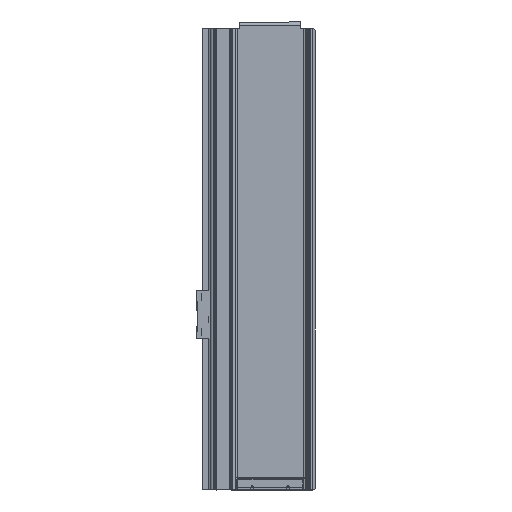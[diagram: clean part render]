
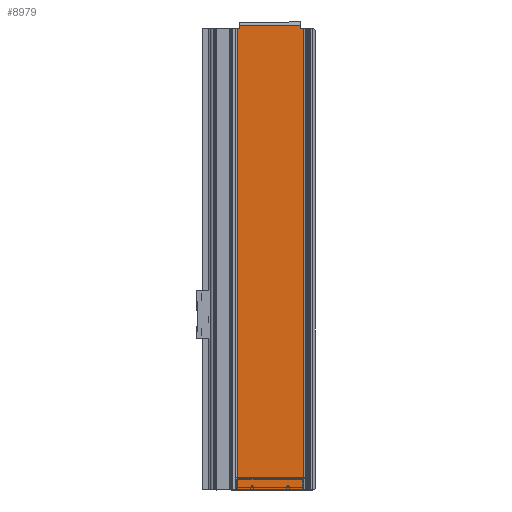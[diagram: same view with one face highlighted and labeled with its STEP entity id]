
A CAD part, left-side view. The second image highlights one B-rep face of the part: STEP entity #8979.
In plain terms, the highlighted planar face has unit normal (-1, 0, 0) as drawn and (1, 0, 0) by its records, which use the part's own axes.
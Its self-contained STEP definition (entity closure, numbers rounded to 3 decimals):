
#267=PLANE('',#9782);
#738=LINE('',#14488,#1466);
#743=LINE('',#14503,#1471);
#748=LINE('',#14512,#1476);
#749=LINE('',#14515,#1477);
#786=LINE('',#14640,#1514);
#804=LINE('',#14688,#1532);
#805=LINE('',#14691,#1533);
#806=LINE('',#14692,#1534);
#1466=VECTOR('',#11616,10.);
#1471=VECTOR('',#11631,10.);
#1476=VECTOR('',#11638,10.);
#1477=VECTOR('',#11641,10.);
#1514=VECTOR('',#11748,10.);
#1532=VECTOR('',#11802,10.);
#1533=VECTOR('',#11805,10.);
#1534=VECTOR('',#11806,10.);
#2195=FACE_OUTER_BOUND('',#2745,.T.);
#2745=EDGE_LOOP('',(#7028,#7029,#7030,#7031,#7032,#7033,#7034,#7035));
#3902=VERTEX_POINT('',#14484);
#3903=VERTEX_POINT('',#14486);
#3908=VERTEX_POINT('',#14502);
#3911=VERTEX_POINT('',#14510);
#3912=VERTEX_POINT('',#14514);
#3965=VERTEX_POINT('',#14638);
#3977=VERTEX_POINT('',#14686);
#3978=VERTEX_POINT('',#14690);
#4955=EDGE_CURVE('',#3902,#3903,#738,.T.);
#4962=EDGE_CURVE('',#3908,#3902,#743,.T.);
#4967=EDGE_CURVE('',#3903,#3911,#748,.T.);
#4968=EDGE_CURVE('',#3912,#3908,#749,.T.);
#5031=EDGE_CURVE('',#3911,#3965,#786,.T.);
#5055=EDGE_CURVE('',#3977,#3965,#804,.T.);
#5056=EDGE_CURVE('',#3978,#3977,#805,.T.);
#5057=EDGE_CURVE('',#3978,#3912,#806,.T.);
#7028=ORIENTED_EDGE('',*,*,#5056,.F.);
#7029=ORIENTED_EDGE('',*,*,#5057,.T.);
#7030=ORIENTED_EDGE('',*,*,#4968,.T.);
#7031=ORIENTED_EDGE('',*,*,#4962,.T.);
#7032=ORIENTED_EDGE('',*,*,#4955,.T.);
#7033=ORIENTED_EDGE('',*,*,#4967,.T.);
#7034=ORIENTED_EDGE('',*,*,#5031,.T.);
#7035=ORIENTED_EDGE('',*,*,#5055,.F.);
#8979=ADVANCED_FACE('',(#2195),#267,.F.);
#9782=AXIS2_PLACEMENT_3D('',#14689,#11803,#11804);
#11616=DIRECTION('',(0.,-1.,0.));
#11631=DIRECTION('',(0.,0.,1.));
#11638=DIRECTION('',(0.,0.,-1.));
#11641=DIRECTION('',(0.,-1.,0.));
#11748=DIRECTION('',(0.,-1.,0.));
#11802=DIRECTION('',(0.,0.,1.));
#11803=DIRECTION('center_axis',(-1.,0.,0.));
#11804=DIRECTION('ref_axis',(0.,-1.,0.));
#11805=DIRECTION('',(0.,-1.,0.));
#11806=DIRECTION('',(0.,0.,1.));
#14484=CARTESIAN_POINT('',(4.9,73.,345.6));
#14486=CARTESIAN_POINT('',(4.9,27.5,345.6));
#14488=CARTESIAN_POINT('',(4.9,73.,345.6));
#14502=CARTESIAN_POINT('',(4.9,73.,343.));
#14503=CARTESIAN_POINT('',(4.9,73.,343.));
#14510=CARTESIAN_POINT('',(4.9,27.5,343.));
#14512=CARTESIAN_POINT('',(4.9,27.5,343.));
#14514=CARTESIAN_POINT('',(4.9,75.342,343.));
#14515=CARTESIAN_POINT('',(4.9,75.342,343.));
#14638=CARTESIAN_POINT('',(4.9,25.9,343.));
#14640=CARTESIAN_POINT('',(4.9,75.342,343.));
#14686=CARTESIAN_POINT('',(4.9,25.9,0.));
#14688=CARTESIAN_POINT('',(4.9,25.9,0.));
#14689=CARTESIAN_POINT('Origin',(4.9,75.342,0.));
#14690=CARTESIAN_POINT('',(4.9,75.342,0.));
#14691=CARTESIAN_POINT('',(4.9,75.342,0.));
#14692=CARTESIAN_POINT('',(4.9,75.342,0.));
